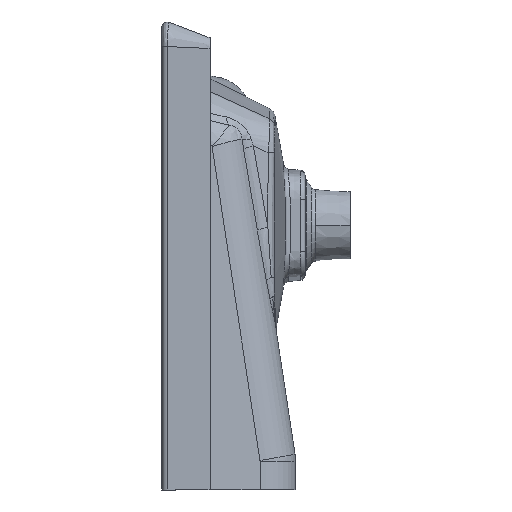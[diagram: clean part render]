
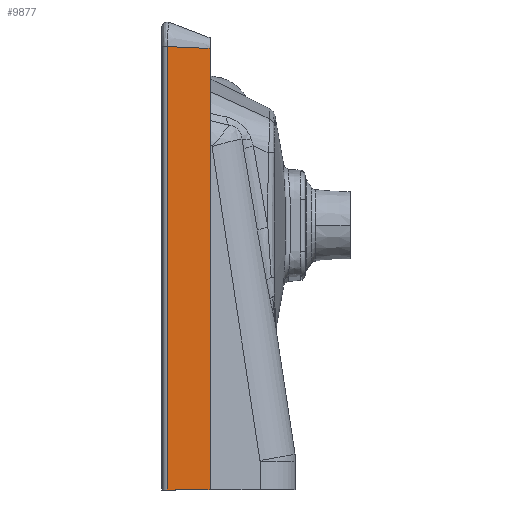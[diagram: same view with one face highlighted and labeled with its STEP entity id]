
A CAD part, left-side view. The second image highlights one B-rep face of the part: STEP entity #9877.
In plain terms, the highlighted planar face has unit normal (-1, -0.018, 0).
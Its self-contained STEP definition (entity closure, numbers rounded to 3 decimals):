
#325 = EDGE_LOOP ( 'NONE', ( #10090, #23669, #18270, #31022 ) ) ;
#766 = VERTEX_POINT ( 'NONE', #13548 ) ;
#2473 = FACE_OUTER_BOUND ( 'NONE', #325, .T. ) ;
#3755 = VECTOR ( 'NONE', #35645, 1000. ) ;
#3984 = DIRECTION ( 'NONE',  ( 0., 0., -1. ) ) ;
#4675 = CARTESIAN_POINT ( 'NONE',  ( -344.938, 97.279, -363.866 ) ) ;
#7110 = LINE ( 'NONE', #15480, #14806 ) ;
#7381 = VECTOR ( 'NONE', #30202, 1000. ) ;
#7448 = EDGE_CURVE ( 'NONE', #29820, #766, #7110, .T. ) ;
#9237 = VERTEX_POINT ( 'NONE', #23963 ) ;
#9690 = CARTESIAN_POINT ( 'NONE',  ( -344.938, 97.279, -247.578 ) ) ;
#9877 = ADVANCED_FACE ( 'NONE', ( #2473 ), #14151, .T. ) ;
#10090 = ORIENTED_EDGE ( 'NONE', *, *, #23361, .T. ) ;
#10420 = LINE ( 'NONE', #4675, #14377 ) ;
#13034 = EDGE_CURVE ( 'NONE', #766, #31360, #29482, .T. ) ;
#13354 = CARTESIAN_POINT ( 'NONE',  ( -344.835, 91.367, -247.578 ) ) ;
#13548 = CARTESIAN_POINT ( 'NONE',  ( -344.242, 57.367, -247.578 ) ) ;
#13777 = CARTESIAN_POINT ( 'NONE',  ( -345.359, 121.362, -363.866 ) ) ;
#14151 = PLANE ( 'NONE',  #22675 ) ;
#14377 = VECTOR ( 'NONE', #35806, 1000. ) ;
#14806 = VECTOR ( 'NONE', #3984, 1000. ) ;
#15480 = CARTESIAN_POINT ( 'NONE',  ( -344.242, 57.367, -247.578 ) ) ;
#15840 = LINE ( 'NONE', #27120, #3755 ) ;
#16682 = CARTESIAN_POINT ( 'NONE',  ( -344.242, 57.367, 165.422 ) ) ;
#18270 = ORIENTED_EDGE ( 'NONE', *, *, #13034, .F. ) ;
#22675 = AXIS2_PLACEMENT_3D ( 'NONE', #13777, #25075, #27665 ) ;
#23361 = EDGE_CURVE ( 'NONE', #29820, #9237, #15840, .T. ) ;
#23669 = ORIENTED_EDGE ( 'NONE', *, *, #31489, .T. ) ;
#23963 = CARTESIAN_POINT ( 'NONE',  ( -344.938, 97.279, 167.196 ) ) ;
#25075 = DIRECTION ( 'NONE',  ( -1., -0.017, 0. ) ) ;
#27120 = CARTESIAN_POINT ( 'NONE',  ( -344.242, 57.367, 165.422 ) ) ;
#27665 = DIRECTION ( 'NONE',  ( 0.017, -1., 0. ) ) ;
#29482 = LINE ( 'NONE', #13354, #7381 ) ;
#29820 = VERTEX_POINT ( 'NONE', #16682 ) ;
#30202 = DIRECTION ( 'NONE',  ( -0.017, 1., 0. ) ) ;
#31022 = ORIENTED_EDGE ( 'NONE', *, *, #7448, .F. ) ;
#31360 = VERTEX_POINT ( 'NONE', #9690 ) ;
#31489 = EDGE_CURVE ( 'NONE', #9237, #31360, #10420, .T. ) ;
#35645 = DIRECTION ( 'NONE',  ( -0.017, 0.999, 0.044 ) ) ;
#35806 = DIRECTION ( 'NONE',  ( 0., 0., -1. ) ) ;
